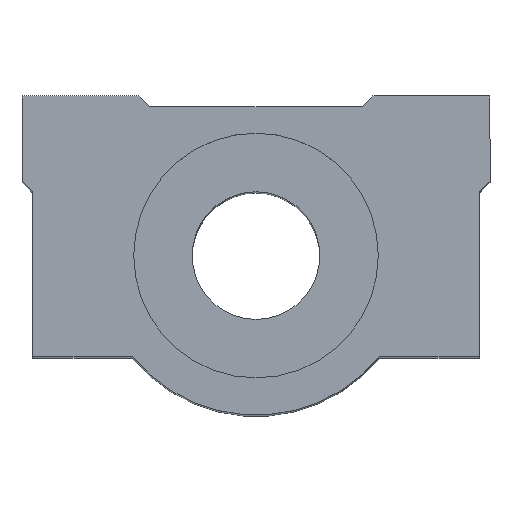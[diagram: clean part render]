
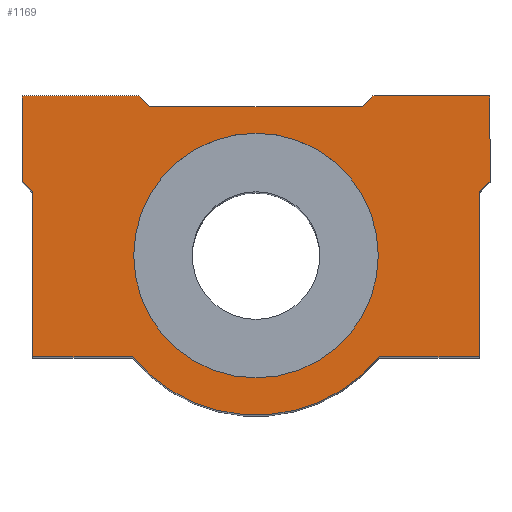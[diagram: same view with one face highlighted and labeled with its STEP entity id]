
A CAD part, top view. The second image highlights one B-rep face of the part: STEP entity #1169.
In plain terms, the highlighted planar face has unit normal (0, 0, 1).
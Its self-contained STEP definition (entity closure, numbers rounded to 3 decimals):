
#91=CARTESIAN_POINT('',(-12.209,4.198,75.0));
#92=VERTEX_POINT('',#91);
#101=CARTESIAN_POINT('',(10.791,4.198,75.0));
#102=VERTEX_POINT('',#101);
#103=CARTESIAN_POINT('',(-0.709,4.198,75.));
#104=DIRECTION('',(0.0,0.0,-1.0));
#105=DIRECTION('',(-1.0,0.0,0.0));
#106=AXIS2_PLACEMENT_3D('',#103,#104,#105);
#107=CIRCLE('',#106,11.5);
#108=EDGE_CURVE('',#102,#92,#107,.T.);
#640=CARTESIAN_POINT('',(-0.709,4.198,75.));
#641=DIRECTION('',(0.0,0.0,-1.0));
#642=DIRECTION('',(-1.0,0.0,0.0));
#643=AXIS2_PLACEMENT_3D('',#640,#641,#642);
#644=CIRCLE('',#643,11.5);
#645=EDGE_CURVE('',#92,#102,#644,.T.);
#780=CARTESIAN_POINT('',(21.291,11.198,75.));
#781=VERTEX_POINT('',#780);
#782=CARTESIAN_POINT('',(20.291,10.198,75.));
#783=VERTEX_POINT('',#782);
#784=CARTESIAN_POINT('',(21.291,11.198,75.));
#785=DIRECTION('',(-0.707,-0.707,0.0));
#786=VECTOR('',#785,1.414);
#787=LINE('',#784,#786);
#788=EDGE_CURVE('',#781,#783,#787,.T.);
#811=CARTESIAN_POINT('',(20.291,-5.302,75.));
#812=VERTEX_POINT('',#811);
#813=CARTESIAN_POINT('',(20.291,10.198,75.));
#814=DIRECTION('',(0.0,-1.0,0.0));
#815=VECTOR('',#814,15.5);
#816=LINE('',#813,#815);
#817=EDGE_CURVE('',#783,#812,#816,.T.);
#835=CARTESIAN_POINT('',(10.899,-5.302,75.));
#836=VERTEX_POINT('',#835);
#837=CARTESIAN_POINT('',(20.291,-5.302,75.));
#838=DIRECTION('',(-1.0,0.0,0.0));
#839=VECTOR('',#838,9.392);
#840=LINE('',#837,#839);
#841=EDGE_CURVE('',#812,#836,#840,.T.);
#867=CARTESIAN_POINT('',(-12.317,-5.302,75.));
#868=VERTEX_POINT('',#867);
#869=CARTESIAN_POINT('',(-0.709,4.198,75.0));
#870=DIRECTION('',(0.0,0.0,-1.0));
#871=DIRECTION('',(0.774,0.633,0.0));
#872=AXIS2_PLACEMENT_3D('',#869,#870,#871);
#873=CIRCLE('',#872,15.);
#874=EDGE_CURVE('',#836,#868,#873,.T.);
#892=CARTESIAN_POINT('',(-21.709,-5.302,75.));
#893=VERTEX_POINT('',#892);
#894=CARTESIAN_POINT('',(-12.317,-5.302,75.));
#895=DIRECTION('',(-1.0,0.0,0.0));
#896=VECTOR('',#895,9.392);
#897=LINE('',#894,#896);
#898=EDGE_CURVE('',#868,#893,#897,.T.);
#924=CARTESIAN_POINT('',(-21.709,10.198,75.));
#925=VERTEX_POINT('',#924);
#926=CARTESIAN_POINT('',(-21.709,-5.302,75.));
#927=DIRECTION('',(0.0,1.0,0.0));
#928=VECTOR('',#927,15.5);
#929=LINE('',#926,#928);
#930=EDGE_CURVE('',#893,#925,#929,.T.);
#948=CARTESIAN_POINT('',(-22.709,11.198,75.));
#949=VERTEX_POINT('',#948);
#950=CARTESIAN_POINT('',(-21.709,10.198,75.));
#951=DIRECTION('',(-0.707,0.707,0.0));
#952=VECTOR('',#951,1.414);
#953=LINE('',#950,#952);
#954=EDGE_CURVE('',#925,#949,#953,.T.);
#972=CARTESIAN_POINT('',(-22.709,19.198,75.));
#973=VERTEX_POINT('',#972);
#974=CARTESIAN_POINT('',(-22.709,11.198,75.));
#975=DIRECTION('',(0.0,1.0,0.0));
#976=VECTOR('',#975,8.0);
#977=LINE('',#974,#976);
#978=EDGE_CURVE('',#949,#973,#977,.T.);
#996=CARTESIAN_POINT('',(-11.709,19.198,75.));
#997=VERTEX_POINT('',#996);
#998=CARTESIAN_POINT('',(-22.709,19.198,75.));
#999=DIRECTION('',(1.0,0.0,0.0));
#1000=VECTOR('',#999,11.);
#1001=LINE('',#998,#1000);
#1002=EDGE_CURVE('',#973,#997,#1001,.T.);
#1028=CARTESIAN_POINT('',(-10.709,18.198,75.));
#1029=VERTEX_POINT('',#1028);
#1030=CARTESIAN_POINT('',(-11.709,19.198,75.));
#1031=DIRECTION('',(0.707,-0.707,0.0));
#1032=VECTOR('',#1031,1.414);
#1033=LINE('',#1030,#1032);
#1034=EDGE_CURVE('',#997,#1029,#1033,.T.);
#1052=CARTESIAN_POINT('',(9.291,18.198,75.));
#1053=VERTEX_POINT('',#1052);
#1054=CARTESIAN_POINT('',(-10.709,18.198,75.));
#1055=DIRECTION('',(1.0,0.0,0.0));
#1056=VECTOR('',#1055,20.0);
#1057=LINE('',#1054,#1056);
#1058=EDGE_CURVE('',#1029,#1053,#1057,.T.);
#1076=CARTESIAN_POINT('',(10.291,19.198,75.));
#1077=VERTEX_POINT('',#1076);
#1078=CARTESIAN_POINT('',(9.291,18.198,75.));
#1079=DIRECTION('',(0.707,0.707,0.0));
#1080=VECTOR('',#1079,1.414);
#1081=LINE('',#1078,#1080);
#1082=EDGE_CURVE('',#1053,#1077,#1081,.T.);
#1100=CARTESIAN_POINT('',(21.291,19.198,75.));
#1101=VERTEX_POINT('',#1100);
#1102=CARTESIAN_POINT('',(10.291,19.198,75.));
#1103=DIRECTION('',(1.0,0.0,0.0));
#1104=VECTOR('',#1103,11.);
#1105=LINE('',#1102,#1104);
#1106=EDGE_CURVE('',#1077,#1101,#1105,.T.);
#1132=CARTESIAN_POINT('',(21.291,19.198,75.));
#1133=DIRECTION('',(0.0,-1.0,0.0));
#1134=VECTOR('',#1133,8.0);
#1135=LINE('',#1132,#1134);
#1136=EDGE_CURVE('',#1101,#781,#1135,.T.);
#1144=CARTESIAN_POINT('',(-0.709,6.156,75.));
#1145=DIRECTION('',(0.0,0.0,1.0));
#1146=DIRECTION('',(1.0,0.0,0.0));
#1147=AXIS2_PLACEMENT_3D('',#1144,#1145,#1146);
#1148=PLANE('',#1147);
#1149=ORIENTED_EDGE('',*,*,#788,.F.);
#1150=ORIENTED_EDGE('',*,*,#1136,.F.);
#1151=ORIENTED_EDGE('',*,*,#1106,.F.);
#1152=ORIENTED_EDGE('',*,*,#1082,.F.);
#1153=ORIENTED_EDGE('',*,*,#1058,.F.);
#1154=ORIENTED_EDGE('',*,*,#1034,.F.);
#1155=ORIENTED_EDGE('',*,*,#1002,.F.);
#1156=ORIENTED_EDGE('',*,*,#978,.F.);
#1157=ORIENTED_EDGE('',*,*,#954,.F.);
#1158=ORIENTED_EDGE('',*,*,#930,.F.);
#1159=ORIENTED_EDGE('',*,*,#898,.F.);
#1160=ORIENTED_EDGE('',*,*,#874,.F.);
#1161=ORIENTED_EDGE('',*,*,#841,.F.);
#1162=ORIENTED_EDGE('',*,*,#817,.F.);
#1163=EDGE_LOOP('',(#1149,#1150,#1151,#1152,#1153,#1154,#1155,#1156,#1157,#1158,#1159,#1160,#1161,#1162));
#1164=FACE_OUTER_BOUND('',#1163,.T.);
#1165=ORIENTED_EDGE('',*,*,#108,.T.);
#1166=ORIENTED_EDGE('',*,*,#645,.T.);
#1167=EDGE_LOOP('',(#1165,#1166));
#1168=FACE_BOUND('',#1167,.T.);
#1169=ADVANCED_FACE('',(#1164,#1168),#1148,.T.);
